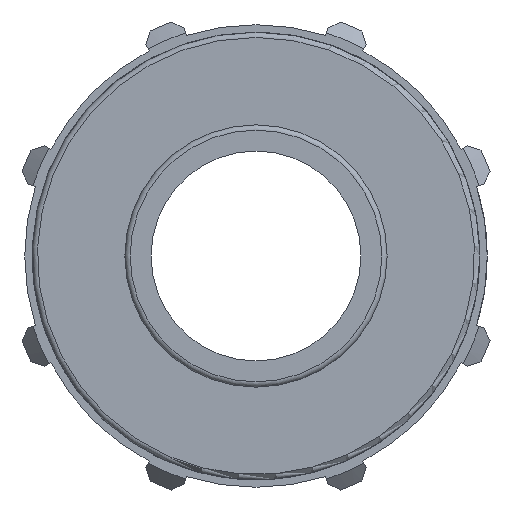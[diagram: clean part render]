
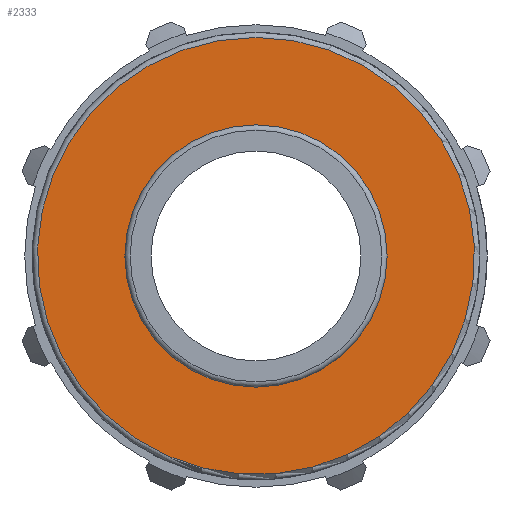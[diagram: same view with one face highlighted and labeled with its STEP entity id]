
A CAD part, left-side view. The second image highlights one B-rep face of the part: STEP entity #2333.
In plain terms, the highlighted planar face has unit normal (-1, 0, 0).
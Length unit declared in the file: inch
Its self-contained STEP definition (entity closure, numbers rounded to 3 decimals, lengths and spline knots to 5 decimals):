
#450=FACE_BOUND('',#666,.T.);
#458=PLANE('',#2527);
#532=FACE_OUTER_BOUND('',#665,.T.);
#665=EDGE_LOOP('',(#1625,#1626));
#666=EDGE_LOOP('',(#1627,#1628));
#821=CIRCLE('',#2525,1.95518);
#822=CIRCLE('',#2526,1.95518);
#823=CIRCLE('',#2528,1.1235);
#824=CIRCLE('',#2529,1.1235);
#977=VERTEX_POINT('',#3798);
#978=VERTEX_POINT('',#3800);
#979=VERTEX_POINT('',#3804);
#980=VERTEX_POINT('',#3805);
#1240=EDGE_CURVE('',#977,#978,#821,.T.);
#1241=EDGE_CURVE('',#978,#977,#822,.T.);
#1242=EDGE_CURVE('',#979,#980,#823,.T.);
#1243=EDGE_CURVE('',#980,#979,#824,.T.);
#1625=ORIENTED_EDGE('',*,*,#1241,.F.);
#1626=ORIENTED_EDGE('',*,*,#1240,.F.);
#1627=ORIENTED_EDGE('',*,*,#1242,.T.);
#1628=ORIENTED_EDGE('',*,*,#1243,.T.);
#2333=ADVANCED_FACE('',(#532,#450),#458,.T.);
#2525=AXIS2_PLACEMENT_3D('',#3801,#2864,#2865);
#2526=AXIS2_PLACEMENT_3D('',#3802,#2866,#2867);
#2527=AXIS2_PLACEMENT_3D('',#3803,#2868,#2869);
#2528=AXIS2_PLACEMENT_3D('',#3806,#2870,#2871);
#2529=AXIS2_PLACEMENT_3D('',#3807,#2872,#2873);
#2864=DIRECTION('center_axis',(1.,0.,0.));
#2865=DIRECTION('ref_axis',(0.,-0.552,0.834));
#2866=DIRECTION('center_axis',(1.,0.,0.));
#2867=DIRECTION('ref_axis',(0.,-0.552,0.834));
#2868=DIRECTION('center_axis',(-1.,0.,0.));
#2869=DIRECTION('ref_axis',(0.,0.,1.));
#2870=DIRECTION('center_axis',(1.,0.,0.));
#2871=DIRECTION('ref_axis',(0.,0.,-1.));
#2872=DIRECTION('center_axis',(1.,0.,0.));
#2873=DIRECTION('ref_axis',(0.,0.,-1.));
#3798=CARTESIAN_POINT('',(1.00871,0.,1.95518));
#3800=CARTESIAN_POINT('',(1.00871,1.07871,-1.63068));
#3801=CARTESIAN_POINT('Origin',(1.00871,0.,0.));
#3802=CARTESIAN_POINT('Origin',(1.00871,0.,0.));
#3803=CARTESIAN_POINT('Origin',(1.00871,2.0025,0.));
#3804=CARTESIAN_POINT('',(1.00871,1.1235,0.));
#3805=CARTESIAN_POINT('',(1.00871,-1.1235,0.));
#3806=CARTESIAN_POINT('Origin',(1.00871,0.,0.));
#3807=CARTESIAN_POINT('Origin',(1.00871,0.,0.));
